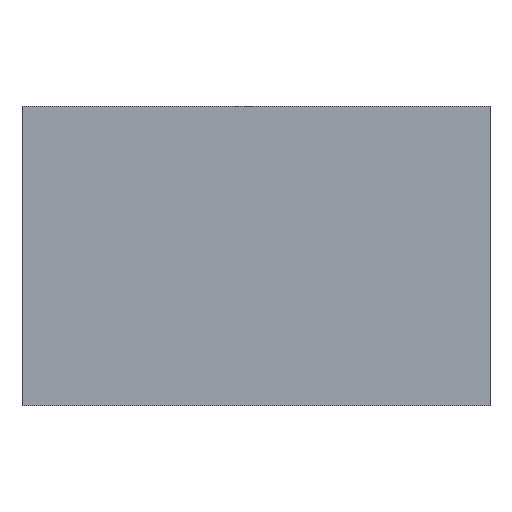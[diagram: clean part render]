
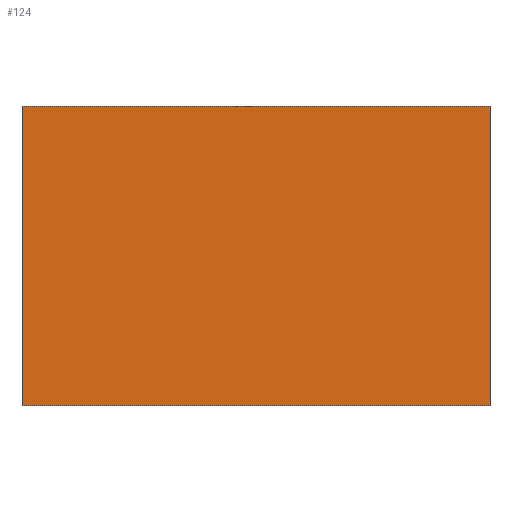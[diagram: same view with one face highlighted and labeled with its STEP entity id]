
A CAD part, front view. The second image highlights one B-rep face of the part: STEP entity #124.
In plain terms, the highlighted planar face has unit normal (0, -1, 0).
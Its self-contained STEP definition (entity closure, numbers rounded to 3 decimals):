
#124 = ADVANCED_FACE( '', ( #260 ), #261, .T. );
#260 = FACE_OUTER_BOUND( '', #405, .T. );
#261 = PLANE( '', #406 );
#405 = EDGE_LOOP( '', ( #759, #760, #761, #762 ) );
#406 = AXIS2_PLACEMENT_3D( '', #763, #764, #765 );
#759 = ORIENTED_EDGE( '', *, *, #948, .F. );
#760 = ORIENTED_EDGE( '', *, *, #986, .F. );
#761 = ORIENTED_EDGE( '', *, *, #1044, .T. );
#762 = ORIENTED_EDGE( '', *, *, #1062, .T. );
#763 = CARTESIAN_POINT( '', ( 0., 0., -32. ) );
#764 = DIRECTION( '', ( 0., -1., 0. ) );
#765 = DIRECTION( '', ( 0., 0., -1. ) );
#948 = EDGE_CURVE( '', #1155, #1157, #1158, .T. );
#986 = EDGE_CURVE( '', #1222, #1155, #1224, .T. );
#1044 = EDGE_CURVE( '', #1222, #1308, #1310, .T. );
#1062 = EDGE_CURVE( '', #1308, #1157, #1328, .T. );
#1155 = VERTEX_POINT( '', #1438 );
#1157 = VERTEX_POINT( '', #1441 );
#1158 = LINE( '', #1442, #1443 );
#1222 = VERTEX_POINT( '', #1528 );
#1224 = LINE( '', #1531, #1532 );
#1308 = VERTEX_POINT( '', #1647 );
#1310 = LINE( '', #1650, #1651 );
#1328 = LINE( '', #1678, #1679 );
#1438 = CARTESIAN_POINT( '', ( 0., 0., 0. ) );
#1441 = CARTESIAN_POINT( '', ( 50., 0., 0. ) );
#1442 = CARTESIAN_POINT( '', ( 0., 0., 0. ) );
#1443 = VECTOR( '', #1766, 1000. );
#1528 = CARTESIAN_POINT( '', ( 0., 0., -32. ) );
#1531 = CARTESIAN_POINT( '', ( 0., 0., -32. ) );
#1532 = VECTOR( '', #1831, 1000. );
#1647 = CARTESIAN_POINT( '', ( 50., 0., -32. ) );
#1650 = CARTESIAN_POINT( '', ( 0., 0., -32. ) );
#1651 = VECTOR( '', #1906, 1000. );
#1678 = CARTESIAN_POINT( '', ( 50., 0., -32. ) );
#1679 = VECTOR( '', #1916, 1000. );
#1766 = DIRECTION( '', ( 1., 0., 0. ) );
#1831 = DIRECTION( '', ( 0., 0., 1. ) );
#1906 = DIRECTION( '', ( 1., 0., 0. ) );
#1916 = DIRECTION( '', ( 0., 0., 1. ) );
